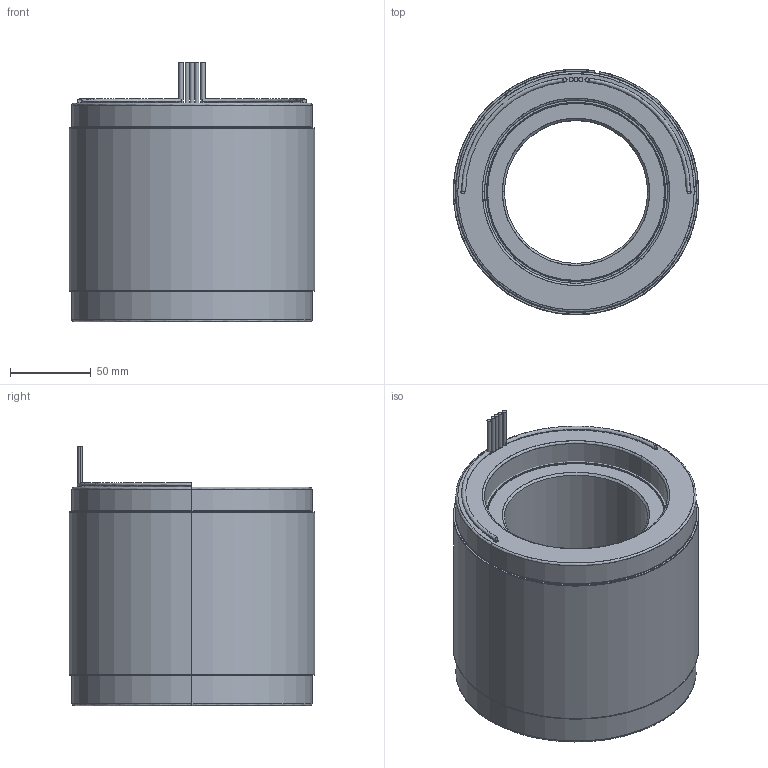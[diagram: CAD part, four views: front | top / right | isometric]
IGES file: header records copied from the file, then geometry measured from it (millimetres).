
Start section: SolidWorks IGES file using analytic representation for surfaces
Global section: file name: Z:\STANDARD STATOR ROTOR SETS\NEW DIRECT DRIVE MOTOR\6 OD 18S16P\6100338-03.IGS; native system: SolidWorks 2016; preprocessor: SolidWorks 2016; author: eng; date: 191023.153351; units: millimetre
Bounding box: 152.4 x 152.39 x 161.29 mm (x, y, z)
Surface area: 367013.3 mm2 (no closed solid volume)
Topology: 0 solids, 0 shells, 128 faces, 2952 edges, 2952 vertices
Faces by surface type: bspline 66, revolution 62
